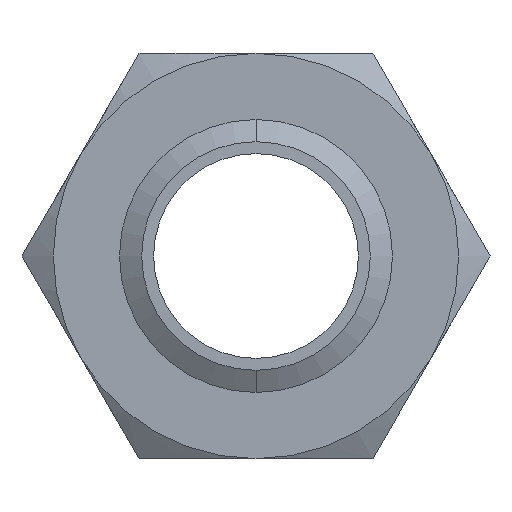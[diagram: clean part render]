
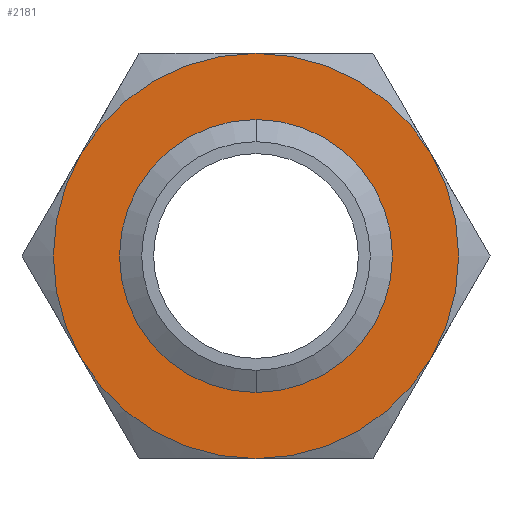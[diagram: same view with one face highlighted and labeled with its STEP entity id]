
A CAD part, front view. The second image highlights one B-rep face of the part: STEP entity #2181.
In plain terms, the highlighted planar face has unit normal (0, -1, 0).
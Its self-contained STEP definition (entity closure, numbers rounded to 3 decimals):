
#245 = EDGE_LOOP ( 'NONE', ( #246, #247 ) ) ;
#246 = ORIENTED_EDGE ( 'NONE', *, *, #2229, .F. ) ;
#247 = ORIENTED_EDGE ( 'NONE', *, *, #267, .F. ) ;
#267 = EDGE_CURVE ( 'NONE', #763, #2213, #996, .T. ) ;
#272 = ORIENTED_EDGE ( 'NONE', *, *, #274, .F. ) ;
#274 = EDGE_CURVE ( 'NONE', #1533, #2070, #1048, .T. ) ;
#275 = ORIENTED_EDGE ( 'NONE', *, *, #276, .F. ) ;
#276 = EDGE_CURVE ( 'NONE', #278, #1533, #1044, .T. ) ;
#277 = ORIENTED_EDGE ( 'NONE', *, *, #281, .F. ) ;
#278 = VERTEX_POINT ( 'NONE', #1040 ) ;
#280 = VERTEX_POINT ( 'NONE', #1038 ) ;
#281 = EDGE_CURVE ( 'NONE', #280, #278, #1035, .T. ) ;
#282 = EDGE_CURVE ( 'NONE', #1902, #280, #1030, .T. ) ;
#284 = ORIENTED_EDGE ( 'NONE', *, *, #282, .F. ) ;
#763 = VERTEX_POINT ( 'NONE', #1674 ) ;
#985 = CARTESIAN_POINT ( 'NONE',  ( 0., 0., 0. ) ) ;
#992 = DIRECTION ( 'NONE',  ( 0., 0., -1. ) ) ;
#993 = DIRECTION ( 'NONE',  ( 0., -1., 0. ) ) ;
#994 = CARTESIAN_POINT ( 'NONE',  ( 0., 0., 0. ) ) ;
#995 = AXIS2_PLACEMENT_3D ( 'NONE', #994, #993, #992 ) ;
#996 = CIRCLE ( 'NONE', #995, 26.804 ) ;
#1027 = DIRECTION ( 'NONE',  ( 0., 0., 1. ) ) ;
#1028 = DIRECTION ( 'NONE',  ( 0., 1., 0. ) ) ;
#1029 = AXIS2_PLACEMENT_3D ( 'NONE', #1036, #1028, #1027 ) ;
#1030 = CIRCLE ( 'NONE', #1029, 47.5 ) ;
#1031 = DIRECTION ( 'NONE',  ( 0., 0., 1. ) ) ;
#1032 = DIRECTION ( 'NONE',  ( 0., 1., 0. ) ) ;
#1033 = CARTESIAN_POINT ( 'NONE',  ( 0., 0., 0. ) ) ;
#1034 = AXIS2_PLACEMENT_3D ( 'NONE', #1033, #1032, #1031 ) ;
#1035 = CIRCLE ( 'NONE', #1034, 47.5 ) ;
#1036 = CARTESIAN_POINT ( 'NONE',  ( 0., 0., 0. ) ) ;
#1038 = CARTESIAN_POINT ( 'NONE',  ( 41.136, 0., -23.75 ) ) ;
#1040 = CARTESIAN_POINT ( 'NONE',  ( 0., 0., -47.5 ) ) ;
#1041 = DIRECTION ( 'NONE',  ( 0., 0., 1. ) ) ;
#1042 = DIRECTION ( 'NONE',  ( 0., 1., 0. ) ) ;
#1043 = AXIS2_PLACEMENT_3D ( 'NONE', #1049, #1042, #1041 ) ;
#1044 = CIRCLE ( 'NONE', #1043, 47.5 ) ;
#1045 = DIRECTION ( 'NONE',  ( 0., 0., 1. ) ) ;
#1046 = DIRECTION ( 'NONE',  ( 0., 1., 0. ) ) ;
#1047 = AXIS2_PLACEMENT_3D ( 'NONE', #985, #1046, #1045 ) ;
#1048 = CIRCLE ( 'NONE', #1047, 47.5 ) ;
#1049 = CARTESIAN_POINT ( 'NONE',  ( 0., 0., 0. ) ) ;
#1533 = VERTEX_POINT ( 'NONE', #1716 ) ;
#1674 = CARTESIAN_POINT ( 'NONE',  ( 0., 0., 26.804 ) ) ;
#1690 = CARTESIAN_POINT ( 'NONE',  ( -41.136, 0., 23.75 ) ) ;
#1701 = CARTESIAN_POINT ( 'NONE',  ( 41.136, 0., 23.75 ) ) ;
#1702 = DIRECTION ( 'NONE',  ( 0., 0., 1. ) ) ;
#1703 = DIRECTION ( 'NONE',  ( 0., 1., 0. ) ) ;
#1704 = CARTESIAN_POINT ( 'NONE',  ( 0., 0., 0. ) ) ;
#1705 = AXIS2_PLACEMENT_3D ( 'NONE', #1704, #1703, #1702 ) ;
#1706 = CIRCLE ( 'NONE', #1705, 47.5 ) ;
#1707 = CARTESIAN_POINT ( 'NONE',  ( 0., 0., 47.5 ) ) ;
#1708 = DIRECTION ( 'NONE',  ( 0., 0., 1. ) ) ;
#1709 = DIRECTION ( 'NONE',  ( 0., 1., 0. ) ) ;
#1710 = CARTESIAN_POINT ( 'NONE',  ( 0., 0., 0. ) ) ;
#1711 = AXIS2_PLACEMENT_3D ( 'NONE', #1710, #1709, #1708 ) ;
#1712 = CIRCLE ( 'NONE', #1711, 47.5 ) ;
#1716 = CARTESIAN_POINT ( 'NONE',  ( -41.136, 0., -23.75 ) ) ;
#1734 = DIRECTION ( 'NONE',  ( 0., 0., 1. ) ) ;
#1735 = DIRECTION ( 'NONE',  ( 0., 1., 0. ) ) ;
#1736 = CARTESIAN_POINT ( 'NONE',  ( 27.424, 0., -47.5 ) ) ;
#1737 = AXIS2_PLACEMENT_3D ( 'NONE', #1736, #1735, #1734 ) ;
#1738 = PLANE ( 'NONE',  #1737 ) ;
#1739 = FACE_BOUND ( 'NONE', #245, .T. ) ;
#1740 = FACE_OUTER_BOUND ( 'NONE', #2094, .T. ) ;
#1803 = CARTESIAN_POINT ( 'NONE',  ( 0., 0., -26.804 ) ) ;
#1840 = DIRECTION ( 'NONE',  ( 0., 0., -1. ) ) ;
#1841 = DIRECTION ( 'NONE',  ( 0., -1., 0. ) ) ;
#1842 = CARTESIAN_POINT ( 'NONE',  ( 0., 0., 0. ) ) ;
#1843 = AXIS2_PLACEMENT_3D ( 'NONE', #1842, #1841, #1840 ) ;
#1844 = CIRCLE ( 'NONE', #1843, 26.804 ) ;
#1863 = ORIENTED_EDGE ( 'NONE', *, *, #1887, .F. ) ;
#1880 = EDGE_CURVE ( 'NONE', #2070, #1896, #1712, .T. ) ;
#1887 = EDGE_CURVE ( 'NONE', #1896, #1902, #1706, .T. ) ;
#1896 = VERTEX_POINT ( 'NONE', #1707 ) ;
#1902 = VERTEX_POINT ( 'NONE', #1701 ) ;
#1994 = ORIENTED_EDGE ( 'NONE', *, *, #1880, .F. ) ;
#2070 = VERTEX_POINT ( 'NONE', #1690 ) ;
#2094 = EDGE_LOOP ( 'NONE', ( #1863, #1994, #272, #275, #277, #284 ) ) ;
#2181 = ADVANCED_FACE ( 'NONE', ( #1740, #1739 ), #1738, .F. ) ;
#2213 = VERTEX_POINT ( 'NONE', #1803 ) ;
#2229 = EDGE_CURVE ( 'NONE', #2213, #763, #1844, .T. ) ;
